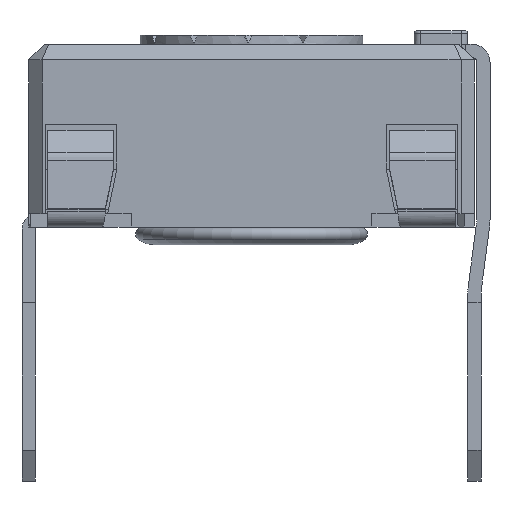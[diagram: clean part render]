
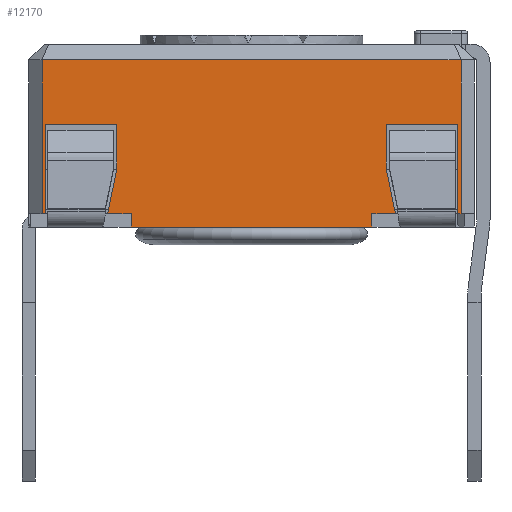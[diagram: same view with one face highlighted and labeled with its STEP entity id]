
A CAD part, left-side view. The second image highlights one B-rep face of the part: STEP entity #12170.
In plain terms, the highlighted planar face has unit normal (-1, 0, 0).
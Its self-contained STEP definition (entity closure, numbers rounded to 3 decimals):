
#737=PLANE('',#13065);
#1341=FACE_OUTER_BOUND('',#1986,.T.);
#1986=EDGE_LOOP('',(#10848,#10849,#10850,#10851,#10852,#10853,#10854,#10855,
#10856,#10857,#10858,#10859,#10860,#10861,#10862,#10863,#10864,#10865));
#3115=LINE('',#18402,#4537);
#3146=LINE('',#18464,#4568);
#3152=LINE('',#18476,#4574);
#3173=LINE('',#18518,#4595);
#3341=LINE('',#19044,#4763);
#3384=LINE('',#19126,#4806);
#3387=LINE('',#19132,#4809);
#3522=LINE('',#19464,#4944);
#3524=LINE('',#19468,#4946);
#3528=LINE('',#19476,#4950);
#3531=LINE('',#19482,#4953);
#3538=LINE('',#19496,#4960);
#3540=LINE('',#19500,#4962);
#3546=LINE('',#19511,#4968);
#3547=LINE('',#19513,#4969);
#3548=LINE('',#19516,#4970);
#3549=LINE('',#19518,#4971);
#3550=LINE('',#19519,#4972);
#4537=VECTOR('',#14880,10.);
#4568=VECTOR('',#14915,10.);
#4574=VECTOR('',#14921,10.);
#4595=VECTOR('',#14944,10.);
#4763=VECTOR('',#15418,10.);
#4806=VECTOR('',#15493,10.);
#4809=VECTOR('',#15502,10.);
#4944=VECTOR('',#15833,10.);
#4946=VECTOR('',#15837,10.);
#4950=VECTOR('',#15843,10.);
#4953=VECTOR('',#15848,10.);
#4960=VECTOR('',#15863,10.);
#4962=VECTOR('',#15867,10.);
#4968=VECTOR('',#15879,10.);
#4969=VECTOR('',#15882,10.);
#4970=VECTOR('',#15885,10.);
#4971=VECTOR('',#15886,10.);
#4972=VECTOR('',#15887,10.);
#5851=VERTEX_POINT('',#18399);
#5852=VERTEX_POINT('',#18401);
#5880=VERTEX_POINT('',#18461);
#5881=VERTEX_POINT('',#18463);
#5886=VERTEX_POINT('',#18473);
#5887=VERTEX_POINT('',#18475);
#5906=VERTEX_POINT('',#18515);
#5907=VERTEX_POINT('',#18517);
#6057=VERTEX_POINT('',#19041);
#6058=VERTEX_POINT('',#19043);
#6162=VERTEX_POINT('',#19462);
#6163=VERTEX_POINT('',#19467);
#6166=VERTEX_POINT('',#19474);
#6168=VERTEX_POINT('',#19481);
#6171=VERTEX_POINT('',#19495);
#6172=VERTEX_POINT('',#19499);
#6175=VERTEX_POINT('',#19515);
#6176=VERTEX_POINT('',#19517);
#7257=EDGE_CURVE('',#5852,#5851,#3115,.T.);
#7288=EDGE_CURVE('',#5881,#5880,#3146,.T.);
#7294=EDGE_CURVE('',#5887,#5886,#3152,.T.);
#7315=EDGE_CURVE('',#5907,#5906,#3173,.T.);
#7560=EDGE_CURVE('',#6058,#6057,#3341,.T.);
#7603=EDGE_CURVE('',#5881,#6057,#3384,.T.);
#7606=EDGE_CURVE('',#5886,#6058,#3387,.T.);
#7769=EDGE_CURVE('',#5880,#6162,#3522,.T.);
#7771=EDGE_CURVE('',#6163,#5887,#3524,.T.);
#7775=EDGE_CURVE('',#6162,#6166,#3528,.T.);
#7778=EDGE_CURVE('',#6168,#6163,#3531,.T.);
#7785=EDGE_CURVE('',#6171,#6168,#3538,.T.);
#7787=EDGE_CURVE('',#6172,#5907,#3540,.T.);
#7793=EDGE_CURVE('',#6166,#6172,#3546,.T.);
#7794=EDGE_CURVE('',#5851,#6171,#3547,.T.);
#7795=EDGE_CURVE('',#6175,#5906,#3548,.T.);
#7796=EDGE_CURVE('',#6176,#6175,#3549,.T.);
#7797=EDGE_CURVE('',#6176,#5852,#3550,.T.);
#10848=ORIENTED_EDGE('',*,*,#7794,.T.);
#10849=ORIENTED_EDGE('',*,*,#7785,.T.);
#10850=ORIENTED_EDGE('',*,*,#7778,.T.);
#10851=ORIENTED_EDGE('',*,*,#7771,.T.);
#10852=ORIENTED_EDGE('',*,*,#7294,.T.);
#10853=ORIENTED_EDGE('',*,*,#7606,.T.);
#10854=ORIENTED_EDGE('',*,*,#7560,.T.);
#10855=ORIENTED_EDGE('',*,*,#7603,.F.);
#10856=ORIENTED_EDGE('',*,*,#7288,.T.);
#10857=ORIENTED_EDGE('',*,*,#7769,.T.);
#10858=ORIENTED_EDGE('',*,*,#7775,.T.);
#10859=ORIENTED_EDGE('',*,*,#7793,.T.);
#10860=ORIENTED_EDGE('',*,*,#7787,.T.);
#10861=ORIENTED_EDGE('',*,*,#7315,.T.);
#10862=ORIENTED_EDGE('',*,*,#7795,.F.);
#10863=ORIENTED_EDGE('',*,*,#7796,.F.);
#10864=ORIENTED_EDGE('',*,*,#7797,.T.);
#10865=ORIENTED_EDGE('',*,*,#7257,.T.);
#12170=ADVANCED_FACE('',(#1341),#737,.T.);
#13065=AXIS2_PLACEMENT_3D('',#19514,#15883,#15884);
#14880=DIRECTION('',(0.,-1.,0.));
#14915=DIRECTION('',(0.,-1.,0.));
#14921=DIRECTION('',(0.,-1.,0.));
#14944=DIRECTION('',(0.,-1.,0.));
#15418=DIRECTION('',(0.,-1.,0.));
#15493=DIRECTION('',(0.,0.,-1.));
#15502=DIRECTION('',(0.,0.,-1.));
#15833=DIRECTION('',(0.,0.199,0.98));
#15837=DIRECTION('',(0.,0.199,-0.98));
#15843=DIRECTION('',(0.,0.,1.));
#15848=DIRECTION('',(0.,0.,-1.));
#15863=DIRECTION('',(0.,-1.,0.));
#15867=DIRECTION('',(0.,0.,-1.));
#15879=DIRECTION('',(0.,-1.,0.));
#15882=DIRECTION('',(0.,0.,1.));
#15883=DIRECTION('center_axis',(-1.,0.,0.));
#15884=DIRECTION('ref_axis',(0.,0.,1.));
#15885=DIRECTION('',(0.,0.,-1.));
#15886=DIRECTION('',(0.,-1.,0.));
#15887=DIRECTION('',(0.,0.,-1.));
#18399=CARTESIAN_POINT('',(-31.348,-8.365,-3.8));
#18401=CARTESIAN_POINT('',(-31.348,-8.29,-3.8));
#18402=CARTESIAN_POINT('',(-31.348,-17.69,-3.8));
#18461=CARTESIAN_POINT('',(-31.348,-16.219,-3.8));
#18463=CARTESIAN_POINT('',(-31.348,-15.69,-3.8));
#18464=CARTESIAN_POINT('',(-31.348,-9.762,-3.8));
#18473=CARTESIAN_POINT('',(-31.348,-10.29,-3.8));
#18475=CARTESIAN_POINT('',(-31.348,-9.762,-3.8));
#18476=CARTESIAN_POINT('',(-31.348,-9.762,-3.8));
#18515=CARTESIAN_POINT('',(-31.348,-17.69,-3.8));
#18517=CARTESIAN_POINT('',(-31.348,-17.615,-3.8));
#18518=CARTESIAN_POINT('',(-31.348,-17.69,-3.8));
#19041=CARTESIAN_POINT('',(-31.348,-15.69,-4.1));
#19043=CARTESIAN_POINT('',(-31.348,-10.29,-4.1));
#19044=CARTESIAN_POINT('',(-31.348,-16.219,-4.1));
#19126=CARTESIAN_POINT('',(-31.348,-15.69,-3.8));
#19132=CARTESIAN_POINT('',(-31.348,-10.29,-3.8));
#19462=CARTESIAN_POINT('',(-31.348,-16.015,-2.8));
#19464=CARTESIAN_POINT('',(-31.348,-16.219,-3.8));
#19467=CARTESIAN_POINT('',(-31.348,-9.965,-2.8));
#19468=CARTESIAN_POINT('',(-31.348,-9.965,-2.8));
#19474=CARTESIAN_POINT('',(-31.348,-16.015,-1.8));
#19476=CARTESIAN_POINT('',(-31.348,-16.015,-2.8));
#19481=CARTESIAN_POINT('',(-31.348,-9.965,-1.8));
#19482=CARTESIAN_POINT('',(-31.348,-9.965,-1.8));
#19495=CARTESIAN_POINT('',(-31.348,-8.365,-1.8));
#19496=CARTESIAN_POINT('',(-31.348,-10.64,-1.8));
#19499=CARTESIAN_POINT('',(-31.348,-17.615,-1.8));
#19500=CARTESIAN_POINT('',(-31.348,-17.615,-1.368));
#19511=CARTESIAN_POINT('',(-31.348,-10.64,-1.8));
#19513=CARTESIAN_POINT('',(-31.348,-8.365,-1.368));
#19514=CARTESIAN_POINT('Origin',(-31.348,-8.29,0.));
#19515=CARTESIAN_POINT('',(-31.348,-17.69,-0.35));
#19516=CARTESIAN_POINT('',(-31.348,-17.69,0.));
#19517=CARTESIAN_POINT('',(-31.348,-8.29,-0.35));
#19518=CARTESIAN_POINT('',(-31.348,-10.64,-0.35));
#19519=CARTESIAN_POINT('',(-31.348,-8.29,0.));
